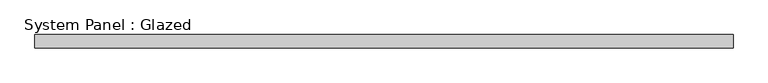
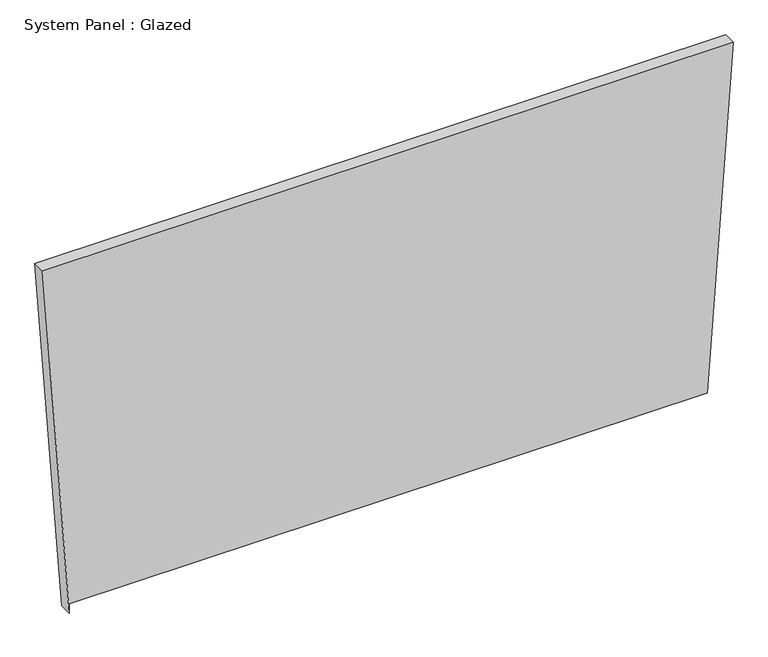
"""IFC4 building model written with IfcOpenShell, lengths in millimetres: plate geometry, System Panel : Glazed."""

from ifc_helpers import new_model, si_unit, frame, origin, place, context, project, spatial, polyline, outline, extrude, source, transform, mapped, element, save


def system_panel_glazed_839ff4eb(model_context):
    return source(origin(), model_context, "Body", "SweptSolid", [
        extrude(outline(polyline([(0.0, -620.2068), (19.05, -620.2066744), (19.0418148, 621.576463), (723.0440459, 672.2156831), (723.0437132, -672.2156831), (0.0, -620.2068)])), frame((0.0, 19.05, 0.0), z_axis=(0.0, 1.0, 0.0), x_axis=(0.0, 0.0, 1.0)), (0.0, 0.0, 1.0), 25.4),
    ])


if __name__ == "__main__":
    model = new_model("IFC4")
    model_context = context("Model", 3, world=origin())
    ifc_project = project(units=[si_unit("LENGTHUNIT", "METRE", prefix="MILLI")], contexts=[model_context])
    site = spatial("IfcSite", under=ifc_project)
    building = spatial("IfcBuilding", under=site)
    placement = place(None, origin())
    system_panel_glazed_shape = system_panel_glazed_839ff4eb(model_context)
    element("IfcPlate", 1, ObjectType="System Panel : Glazed", at=placement, inside=building, context=model_context, shape_type="MappedRepresentation", body=[
        mapped(system_panel_glazed_shape, transform((0.0, 0.0, 0.0), x_axis=(1.0, 0.0, 0.0), y_axis=(0.0, 1.0, 0.0), z_axis=(0.0, 0.0, 1.0))),
    ])
    save(model, "model.ifc")
